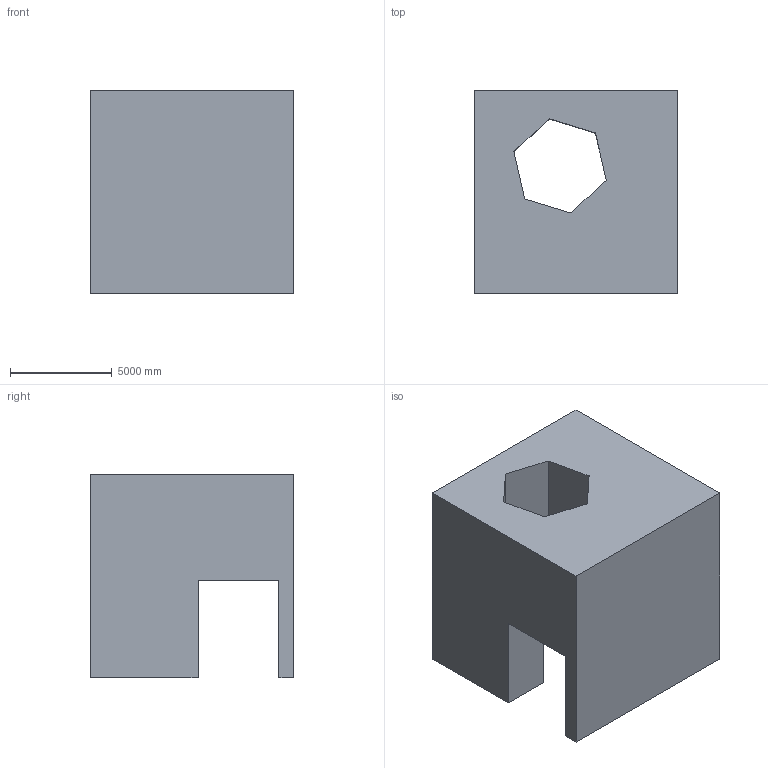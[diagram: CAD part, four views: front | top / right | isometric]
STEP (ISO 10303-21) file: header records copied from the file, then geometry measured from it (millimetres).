
FILE_DESCRIPTION (( 'STEP AP203' ), '1' );
FILE_NAME ('1070.STEP', '2022-08-18T12:38:36', ( 'user' ), ( '' ), 'SwSTEP 2.0', 'SolidWorks 2021', '' );
FILE_SCHEMA (( 'CONFIG_CONTROL_DESIGN' ));
Length unit declared in the file: centimetre
Products named in the file (1): 1070
Bounding box: 10000 x 10000 x 10000 mm (x, y, z)
Volume: 668467961847.1 mm3; surface area: 739368467.4 mm2
Topology: 1 solids, 1 shells, 17 faces, 48 edges, 32 vertices
Faces by surface type: plane 17
Entity records: 623 total; most frequent: CARTESIAN_POINT 98, ORIENTED_EDGE 96, DIRECTION 84, EDGE_CURVE 48, LINE 48, VECTOR 48, VERTEX_POINT 32, AXIS2_PLACEMENT_3D 18
